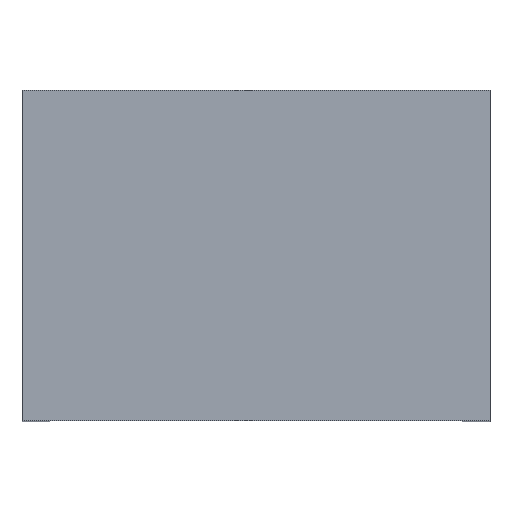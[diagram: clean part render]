
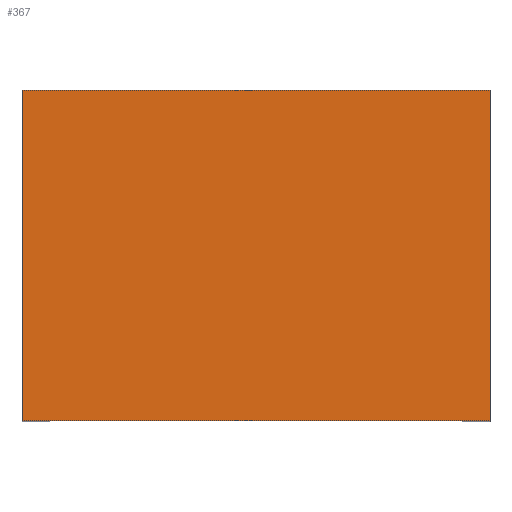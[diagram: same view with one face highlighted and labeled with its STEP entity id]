
A CAD part, top view. The second image highlights one B-rep face of the part: STEP entity #367.
In plain terms, the highlighted planar face has unit normal (0, 0, 1).
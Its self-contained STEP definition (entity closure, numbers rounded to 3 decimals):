
#137=CARTESIAN_POINT('',(25.,268.,807.657));
#138=VERTEX_POINT('',#137);
#145=CARTESIAN_POINT('',(-145.,268.,807.657));
#146=VERTEX_POINT('',#145);
#147=CARTESIAN_POINT('',(-145.,268.,807.657));
#148=DIRECTION('',(1.,0.,0.));
#149=VECTOR('',#148,170.);
#150=LINE('',#147,#149);
#151=EDGE_CURVE('',#146,#138,#150,.T.);
#285=CARTESIAN_POINT('',(25.,388.,807.657));
#286=VERTEX_POINT('',#285);
#295=CARTESIAN_POINT('',(25.,268.,807.657));
#296=DIRECTION('',(-0.,1.,0.));
#297=VECTOR('',#296,120.);
#298=LINE('',#295,#297);
#299=EDGE_CURVE('',#138,#286,#298,.T.);
#344=CARTESIAN_POINT('',(-555.,367.517,807.657));
#345=DIRECTION('',(0.,0.,-1.));
#346=DIRECTION('',(-1.,0.,0.));
#347=AXIS2_PLACEMENT_3D('',#344,#345,#346);
#348=PLANE('',#347);
#349=CARTESIAN_POINT('',(-145.,388.,807.657));
#350=VERTEX_POINT('',#349);
#351=CARTESIAN_POINT('',(-145.,388.,807.657));
#352=DIRECTION('',(1.,0.,0.));
#353=VECTOR('',#352,170.);
#354=LINE('',#351,#353);
#355=EDGE_CURVE('',#350,#286,#354,.T.);
#356=ORIENTED_EDGE('',*,*,#355,.F.);
#357=CARTESIAN_POINT('',(-145.,388.,807.657));
#358=DIRECTION('',(0.,-1.,0.));
#359=VECTOR('',#358,120.);
#360=LINE('',#357,#359);
#361=EDGE_CURVE('',#350,#146,#360,.T.);
#362=ORIENTED_EDGE('',*,*,#361,.T.);
#363=ORIENTED_EDGE('',*,*,#151,.T.);
#364=ORIENTED_EDGE('',*,*,#299,.T.);
#365=EDGE_LOOP('',(#356,#362,#363,#364));
#366=FACE_BOUND('',#365,.T.);
#367=ADVANCED_FACE('',(#366),#348,.F.);
